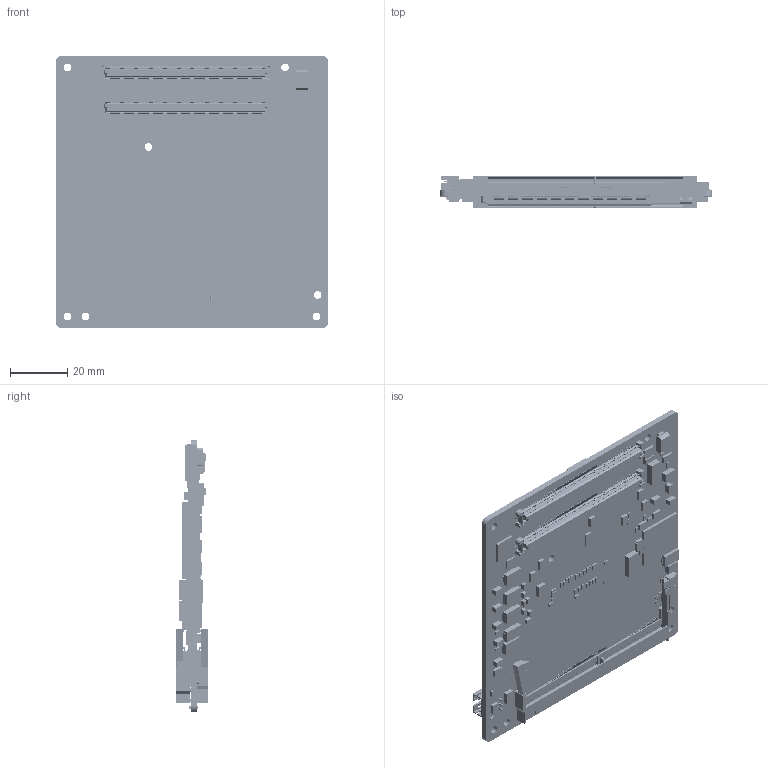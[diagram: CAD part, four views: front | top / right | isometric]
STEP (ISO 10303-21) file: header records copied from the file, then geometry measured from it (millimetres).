
FILE_DESCRIPTION (( 'STEP AP203' ), '1' );
FILE_NAME ('SOM-6898C7-U8A1E.STEP', '2017-06-13T05:52:07', ( '' ), ( '' ), 'SwSTEP 2.0', 'SolidWorks 2016', '' );
FILE_SCHEMA (( 'CONFIG_CONTROL_DESIGN' ));
Products named in the file (1): SOM-6898C7-U8A1E
Bounding box: 95 x 11.31 x 95 mm (x, y, z)
Volume: 28979.4 mm3; surface area: 40842.8 mm2
Topology: 367 solids, 367 shells, 16082 faces, 42355 edges, 28211 vertices
Faces by surface type: plane 14692, cylinder 1269, bspline 109, cone 8, sphere 4
Entity records: 492774 total; most frequent: CARTESIAN_POINT 92508, ORIENTED_EDGE 84702, DIRECTION 76709, EDGE_CURVE 42351, LINE 39493, VECTOR 39493, VERTEX_POINT 28211, AXIS2_PLACEMENT_3D 18608
